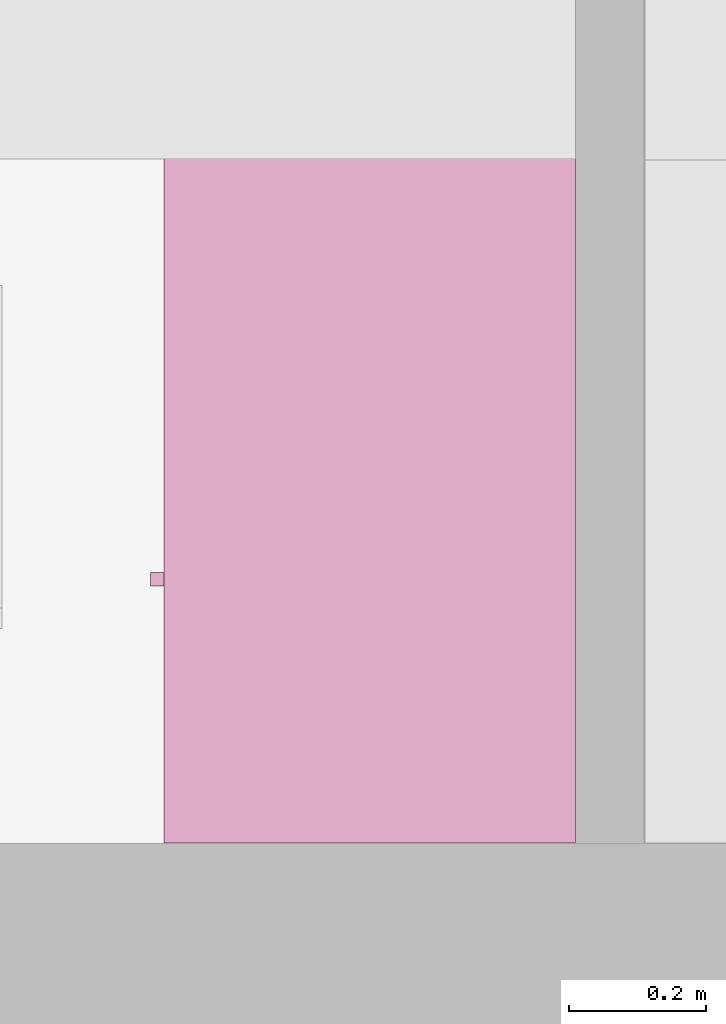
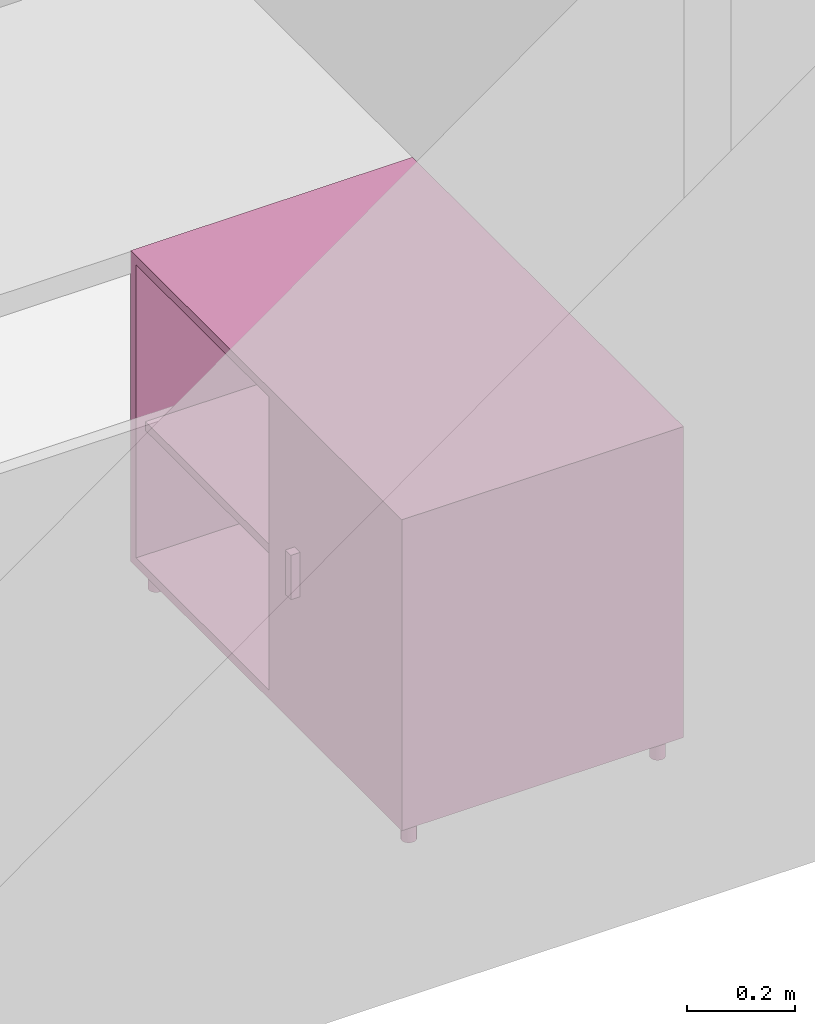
"""IFC4 building model written with IfcOpenShell, lengths in metres."""

from ifc_helpers import new_model, entity, si_unit, converted_unit, derived_unit, frame, origin, place, context, subcontext, project, spatial, faceted_brep, element, save


model = new_model("IFC4")

# Units and contexts
model_context = context("Model", 3, precision=1e-05, world=origin())
body_context = subcontext(model_context, "Body", "Model", "MODEL_VIEW")
ifc_project = project(units=[si_unit("LENGTHUNIT", "METRE"), si_unit("AREAUNIT", "SQUARE_METRE"), si_unit("VOLUMEUNIT", "CUBIC_METRE"), si_unit("MASSUNIT", "GRAM", prefix="KILO"), converted_unit("PLANEANGLEUNIT", "DEGREE", entity("IfcPlaneAngleMeasure", 0.0174532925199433), si_unit("PLANEANGLEUNIT", "RADIAN"), dimensions=[0, 0, 0, 0, 0, 0, 0]), derived_unit("THERMALTRANSMITTANCEUNIT", [(si_unit("POWERUNIT", "WATT"), 1), (si_unit("THERMODYNAMICTEMPERATUREUNIT", "KELVIN"), -1), (si_unit("LENGTHUNIT", "METRE"), -2)]), derived_unit("VOLUMETRICFLOWRATEUNIT", [(si_unit("LENGTHUNIT", "METRE"), 3), (converted_unit("TIMEUNIT", "hour", entity("IfcTimeMeasure", 3600.0), si_unit("TIMEUNIT", "SECOND"), dimensions=[0, 0, 1, 0, 0, 0, 0]), -1), (si_unit("LENGTHUNIT", "METRE"), -1)])], contexts=[model_context])

# Building, storeys
building_placement = place(None, origin())
building = spatial("IfcBuilding", under=ifc_project, at=building_placement, Name="HABITATGE PLURIFAMILIAR", CompositionType="ELEMENT")
storey_1_placement = place(building_placement, frame((0.0, 0.0, 6.25)))
storey_1 = spatial("IfcBuildingStorey", under=building, at=storey_1_placement, Name="PLANTA PRIMERA", CompositionType="ELEMENT", Elevation=6.25)
storey_2_placement = place(storey_1_placement, frame((0.0, 0.0, 3.35)))
storey_2 = spatial("IfcBuildingStorey", under=storey_1, at=storey_2_placement, Name="NOU", CompositionType="PARTIAL")

# Furniture
furniture_placement = place(storey_2_placement, frame((417.877263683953, 13.1215419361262, -3.35)))
element("IfcFurniture", 1, at=furniture_placement, inside=storey_2, Name="Taula 100X60_P1", context=body_context, shape_type="Brep", body=[
    faceted_brep([(0.620000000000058, 1.00000000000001, 0.05), (0.620000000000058, 1.00000000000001, 0.07), (0.02, 1.00000000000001, 0.07), (0.02, 1.00000000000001, 0.05), (0.02, 0.0, 0.07), (0.02, 0.0, 0.05), (0.620000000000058, 0.0, 0.07), (0.620000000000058, 0.0, 0.05)], [[[0, 1, 2, 3]], [[3, 2, 4, 5]], [[5, 4, 6, 7]], [[7, 6, 1, 0]], [[0, 3, 5, 7]], [[1, 6, 4, 2]]], orient=[[False], [False], [False], [False], [False], [False]]),
    faceted_brep([(0.04, 1.00000000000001, 0.35), (0.04, 0.0, 0.35), (0.62, 0.0, 0.35), (0.62, 1.00000000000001, 0.35), (0.62, 1.00000000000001, 0.37), (0.62, 0.0, 0.37), (0.04, 0.0, 0.37), (0.04, 1.00000000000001, 0.37)], [[[0, 1, 2, 3]], [[4, 5, 6, 7]], [[3, 4, 7, 0]], [[2, 5, 4, 3]], [[1, 6, 5, 2]], [[0, 7, 6, 1]]], orient=[[False], [False], [False], [False], [False], [False]]),
    faceted_brep([(0.04, 0.490000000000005, 0.75), (0.02, 0.490000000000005, 0.75), (0.02, 0.490000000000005, 0.05), (0.04, 0.490000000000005, 0.05), (0.02, 0.0, 0.05), (0.04, 0.0, 0.05), (0.02, 0.0, 0.75), (0.04, 0.0, 0.75)], [[[0, 1, 2, 3]], [[3, 2, 4, 5]], [[5, 4, 6, 7]], [[7, 6, 1, 0]], [[0, 3, 5, 7]], [[1, 6, 4, 2]]], orient=[[False], [False], [False], [False], [False], [False]]),
    faceted_brep([(0.62, 0.980000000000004, 0.75), (0.62, 1.0, 0.75), (0.620000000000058, 1.0, 0.0499999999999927), (0.620000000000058, 0.980000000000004, 0.0499999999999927), (0.02, 1.00000000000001, 0.05), (0.02, 0.980000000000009, 0.05), (0.02, 1.00000000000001, 0.75), (0.02, 0.980000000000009, 0.75)], [[[0, 1, 2, 3]], [[3, 2, 4, 5]], [[5, 4, 6, 7]], [[7, 6, 1, 0]], [[0, 3, 5, 7]], [[1, 6, 4, 2]]], orient=[[False], [False], [False], [False], [False], [False]]),
    faceted_brep([(0.62, 0.470000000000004, 0.75), (0.62, 0.490000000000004, 0.75), (0.620000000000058, 0.490000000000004, 0.0499999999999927), (0.620000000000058, 0.470000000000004, 0.0499999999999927), (0.02, 0.490000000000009, 0.05), (0.02, 0.470000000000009, 0.05), (0.02, 0.490000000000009, 0.75), (0.02, 0.470000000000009, 0.75)], [[[0, 1, 2, 3]], [[3, 2, 4, 5]], [[5, 4, 6, 7]], [[7, 6, 1, 0]], [[0, 3, 5, 7]], [[1, 6, 4, 2]]], orient=[[False], [False], [False], [False], [False], [False]]),
    faceted_brep([(0.620000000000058, 0.47, 0.75000000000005), (0.620000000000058, 0.490000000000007, 0.75000000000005), (0.620000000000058, 0.490000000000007, 0.0499999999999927), (0.620000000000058, 0.47, 0.0499999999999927), (0.0400000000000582, 0.490000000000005, 0.0499999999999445), (0.0400000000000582, 0.469999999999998, 0.0499999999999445), (0.04, 0.490000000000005, 0.750000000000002), (0.04, 0.469999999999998, 0.750000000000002)], [[[0, 1, 2, 3]], [[3, 2, 4, 5]], [[5, 4, 6, 7]], [[7, 6, 1, 0]], [[0, 3, 5, 7]], [[1, 6, 4, 2]]], orient=[[False], [False], [False], [False], [False], [False]]),
    faceted_brep([(0.62, 0.0, 0.75), (0.62, 0.0200000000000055, 0.75), (0.620000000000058, 0.0200000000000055, 0.0499999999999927), (0.620000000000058, 0.0, 0.0499999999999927), (0.02, 0.0200000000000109, 0.05), (0.02, 0.0, 0.05), (0.02, 0.0200000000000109, 0.75), (0.02, 0.0, 0.75)], [[[0, 1, 2, 3]], [[3, 2, 4, 5]], [[5, 4, 6, 7]], [[7, 6, 1, 0]], [[0, 3, 5, 7]], [[1, 6, 4, 2]]], orient=[[False], [False], [False], [False], [False], [False]]),
    faceted_brep([(0.620000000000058, 1.00000000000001, 0.73), (0.620000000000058, 1.00000000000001, 0.75), (0.02, 1.00000000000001, 0.75), (0.02, 1.00000000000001, 0.73), (0.02, 0.0, 0.75), (0.02, 0.0, 0.73), (0.620000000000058, 0.0, 0.75), (0.620000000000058, 0.0, 0.73)], [[[0, 1, 2, 3]], [[3, 2, 4, 5]], [[5, 4, 6, 7]], [[7, 6, 1, 0]], [[0, 3, 5, 7]], [[1, 6, 4, 2]]], orient=[[False], [False], [False], [False], [False], [False]]),
    faceted_brep([(0.62, 0.980000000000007, 0.75), (0.6, 0.980000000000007, 0.75), (0.6, 0.980000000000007, 0.05), (0.62, 0.980000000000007, 0.05), (0.6, 0.0, 0.05), (0.62, 0.0, 0.05), (0.6, 0.0, 0.75), (0.62, 0.0, 0.75)], [[[0, 1, 2, 3]], [[3, 2, 4, 5]], [[5, 4, 6, 7]], [[7, 6, 1, 0]], [[0, 3, 5, 7]], [[1, 6, 4, 2]]], orient=[[False], [False], [False], [False], [False], [False]]),
    faceted_brep([(0.02, 0.374420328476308, 0.35), (0.02, 0.394420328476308, 0.35), (0.0, 0.394420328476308, 0.35), (0.0, 0.374420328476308, 0.35), (0.02, 0.394420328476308, 0.45), (0.02, 0.374420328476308, 0.45), (0.0, 0.374420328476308, 0.45), (0.0, 0.394420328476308, 0.45)], [[[0, 1, 2, 3]], [[4, 5, 6, 7]], [[1, 0, 5, 4]], [[2, 1, 4, 7]], [[3, 2, 7, 6]], [[0, 3, 6, 5]]], orient=[[False], [False], [False], [False], [False], [False]]),
    faceted_brep([(0.583821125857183, 0.950063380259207, 0.0), (0.586415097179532, 0.950290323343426, 0.0), (0.588930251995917, 0.950964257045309, 0.0), (0.591290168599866, 0.95206470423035, 0.0), (0.59342314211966, 0.953558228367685, 0.0), (0.595264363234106, 0.955399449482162, 0.0), (0.596757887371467, 0.957532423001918, 0.0), (0.597858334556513, 0.959892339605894, 0.0), (0.598532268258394, 0.962407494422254, 0.0), (0.598759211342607, 0.96500146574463, 0.0), (0.598532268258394, 0.967595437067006, 0.0), (0.597858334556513, 0.970110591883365, 0.0), (0.596757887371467, 0.972470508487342, 0.0), (0.595264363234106, 0.974603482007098, 0.0), (0.59342314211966, 0.976444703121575, 0.0), (0.591290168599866, 0.97793822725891, 0.0), (0.588930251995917, 0.979038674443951, 0.0), (0.586415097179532, 0.979712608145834, 0.0), (0.583821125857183, 0.979939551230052, 0.0), (0.581227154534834, 0.979712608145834, 0.0), (0.578711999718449, 0.979038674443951, 0.0), (0.5763520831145, 0.97793822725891, 0.0), (0.574219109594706, 0.976444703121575, 0.0), (0.57237788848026, 0.974603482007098, 0.0), (0.570884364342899, 0.972470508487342, 0.0), (0.569783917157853, 0.970110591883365, 0.0), (0.569109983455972, 0.967595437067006, 0.0), (0.568883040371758, 0.96500146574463, 0.0), (0.569109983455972, 0.962407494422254, 0.0), (0.569783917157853, 0.959892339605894, 0.0), (0.570884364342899, 0.957532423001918, 0.0), (0.57237788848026, 0.955399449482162, 0.0), (0.574219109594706, 0.953558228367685, 0.0), (0.5763520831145, 0.95206470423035, 0.0), (0.578711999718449, 0.950964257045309, 0.0), (0.581227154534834, 0.950290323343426, 0.0), (0.583821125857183, 0.950063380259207, 0.05), (0.581227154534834, 0.950290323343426, 0.05), (0.578711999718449, 0.950964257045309, 0.05), (0.5763520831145, 0.95206470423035, 0.05), (0.574219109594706, 0.953558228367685, 0.05), (0.57237788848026, 0.955399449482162, 0.05), (0.570884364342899, 0.957532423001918, 0.05), (0.569783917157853, 0.959892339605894, 0.05), (0.569109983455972, 0.962407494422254, 0.05), (0.568883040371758, 0.96500146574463, 0.05), (0.569109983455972, 0.967595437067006, 0.05), (0.569783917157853, 0.970110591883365, 0.05), (0.570884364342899, 0.972470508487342, 0.05), (0.57237788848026, 0.974603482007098, 0.05), (0.574219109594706, 0.976444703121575, 0.05), (0.5763520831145, 0.97793822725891, 0.05), (0.578711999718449, 0.979038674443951, 0.05), (0.581227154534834, 0.979712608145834, 0.05), (0.583821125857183, 0.979939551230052, 0.05), (0.586415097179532, 0.979712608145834, 0.05), (0.588930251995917, 0.979038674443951, 0.05), (0.591290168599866, 0.97793822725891, 0.05), (0.59342314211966, 0.976444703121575, 0.05), (0.595264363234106, 0.974603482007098, 0.05), (0.596757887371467, 0.972470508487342, 0.05), (0.597858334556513, 0.970110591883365, 0.05), (0.598532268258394, 0.967595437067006, 0.05), (0.598759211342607, 0.96500146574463, 0.05), (0.598532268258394, 0.962407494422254, 0.05), (0.597858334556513, 0.959892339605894, 0.05), (0.596757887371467, 0.957532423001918, 0.05), (0.595264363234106, 0.955399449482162, 0.05), (0.59342314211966, 0.953558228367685, 0.05), (0.591290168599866, 0.95206470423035, 0.05), (0.588930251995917, 0.950964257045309, 0.05), (0.586415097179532, 0.950290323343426, 0.05)], [[[0, 1, 2, 3, 4, 5, 6, 7, 8, 9, 10, 11, 12, 13, 14, 15, 16, 17, 18, 19, 20, 21, 22, 23, 24, 25, 26, 27, 28, 29, 30, 31, 32, 33, 34, 35]], [[36, 37, 38, 39, 40, 41, 42, 43, 44, 45, 46, 47, 48, 49, 50, 51, 52, 53, 54, 55, 56, 57, 58, 59, 60, 61, 62, 63, 64, 65, 66, 67, 68, 69, 70, 71]], [[35, 37, 36, 0]], [[34, 38, 37, 35]], [[33, 39, 38, 34]], [[32, 40, 39, 33]], [[31, 41, 40, 32]], [[30, 42, 41, 31]], [[29, 43, 42, 30]], [[28, 44, 43, 29]], [[27, 45, 44, 28]], [[26, 46, 45, 27]], [[25, 47, 46, 26]], [[24, 48, 47, 25]], [[23, 49, 48, 24]], [[22, 50, 49, 23]], [[21, 51, 50, 22]], [[20, 52, 51, 21]], [[19, 53, 52, 20]], [[18, 54, 53, 19]], [[17, 55, 54, 18]], [[16, 56, 55, 17]], [[15, 57, 56, 16]], [[14, 58, 57, 15]], [[13, 59, 58, 14]], [[12, 60, 59, 13]], [[11, 61, 60, 12]], [[10, 62, 61, 11]], [[9, 63, 62, 10]], [[8, 64, 63, 9]], [[7, 65, 64, 8]], [[6, 66, 65, 7]], [[5, 67, 66, 6]], [[4, 68, 67, 5]], [[3, 69, 68, 4]], [[2, 70, 69, 3]], [[1, 71, 70, 2]], [[0, 36, 71, 1]]], orient=[[False], [False], [False], [False], [False], [False], [False], [False], [False], [False], [False], [False], [False], [False], [False], [False], [False], [False], [False], [False], [False], [False], [False], [False], [False], [False], [False], [False], [False], [False], [False], [False], [False], [False], [False], [False], [False], [False]]),
    faceted_brep([(0.0538211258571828, 0.950063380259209, 0.0), (0.0564150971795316, 0.950290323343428, 0.0), (0.0589302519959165, 0.950964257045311, 0.0), (0.0612901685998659, 0.952064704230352, 0.0), (0.06342314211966, 0.953558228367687, 0.0), (0.065264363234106, 0.955399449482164, 0.0), (0.0667578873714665, 0.95753242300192, 0.0), (0.067858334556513, 0.959892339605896, 0.0), (0.0685322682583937, 0.962407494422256, 0.0), (0.0687592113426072, 0.965001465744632, 0.0), (0.0685322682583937, 0.967595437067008, 0.0), (0.067858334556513, 0.970110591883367, 0.0), (0.0667578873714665, 0.972470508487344, 0.0), (0.065264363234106, 0.9746034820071, 0.0), (0.06342314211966, 0.976444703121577, 0.0), (0.0612901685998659, 0.977938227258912, 0.0), (0.0589302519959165, 0.979038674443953, 0.0), (0.0564150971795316, 0.979712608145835, 0.0), (0.0538211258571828, 0.979939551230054, 0.0), (0.051227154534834, 0.979712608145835, 0.0), (0.0487119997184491, 0.979038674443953, 0.0), (0.0463520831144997, 0.977938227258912, 0.0), (0.0442191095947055, 0.976444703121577, 0.0), (0.0423778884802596, 0.9746034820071, 0.0), (0.0408843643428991, 0.972470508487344, 0.0), (0.0397839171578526, 0.970110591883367, 0.0), (0.0391099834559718, 0.967595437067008, 0.0), (0.0388830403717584, 0.965001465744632, 0.0), (0.0391099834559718, 0.962407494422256, 0.0), (0.0397839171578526, 0.959892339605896, 0.0), (0.0408843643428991, 0.95753242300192, 0.0), (0.0423778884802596, 0.955399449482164, 0.0), (0.0442191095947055, 0.953558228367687, 0.0), (0.0463520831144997, 0.952064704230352, 0.0), (0.0487119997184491, 0.950964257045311, 0.0), (0.051227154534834, 0.950290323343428, 0.0), (0.0538211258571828, 0.950063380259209, 0.05), (0.051227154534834, 0.950290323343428, 0.05), (0.0487119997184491, 0.950964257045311, 0.05), (0.0463520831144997, 0.952064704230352, 0.05), (0.0442191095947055, 0.953558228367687, 0.05), (0.0423778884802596, 0.955399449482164, 0.05), (0.0408843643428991, 0.95753242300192, 0.05), (0.0397839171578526, 0.959892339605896, 0.05), (0.0391099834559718, 0.962407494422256, 0.05), (0.0388830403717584, 0.965001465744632, 0.05), (0.0391099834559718, 0.967595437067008, 0.05), (0.0397839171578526, 0.970110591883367, 0.05), (0.0408843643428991, 0.972470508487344, 0.05), (0.0423778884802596, 0.9746034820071, 0.05), (0.0442191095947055, 0.976444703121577, 0.05), (0.0463520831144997, 0.977938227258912, 0.05), (0.0487119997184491, 0.979038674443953, 0.05), (0.051227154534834, 0.979712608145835, 0.05), (0.0538211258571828, 0.979939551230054, 0.05), (0.0564150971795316, 0.979712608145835, 0.05), (0.0589302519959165, 0.979038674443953, 0.05), (0.0612901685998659, 0.977938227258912, 0.05), (0.06342314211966, 0.976444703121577, 0.05), (0.065264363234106, 0.9746034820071, 0.05), (0.0667578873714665, 0.972470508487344, 0.05), (0.067858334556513, 0.970110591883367, 0.05), (0.0685322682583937, 0.967595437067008, 0.05), (0.0687592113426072, 0.965001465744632, 0.05), (0.0685322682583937, 0.962407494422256, 0.05), (0.067858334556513, 0.959892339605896, 0.05), (0.0667578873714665, 0.95753242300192, 0.05), (0.065264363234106, 0.955399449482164, 0.05), (0.06342314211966, 0.953558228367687, 0.05), (0.0612901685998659, 0.952064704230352, 0.05), (0.0589302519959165, 0.950964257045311, 0.05), (0.0564150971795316, 0.950290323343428, 0.05)], [[[0, 1, 2, 3, 4, 5, 6, 7, 8, 9, 10, 11, 12, 13, 14, 15, 16, 17, 18, 19, 20, 21, 22, 23, 24, 25, 26, 27, 28, 29, 30, 31, 32, 33, 34, 35]], [[36, 37, 38, 39, 40, 41, 42, 43, 44, 45, 46, 47, 48, 49, 50, 51, 52, 53, 54, 55, 56, 57, 58, 59, 60, 61, 62, 63, 64, 65, 66, 67, 68, 69, 70, 71]], [[35, 37, 36, 0]], [[34, 38, 37, 35]], [[33, 39, 38, 34]], [[32, 40, 39, 33]], [[31, 41, 40, 32]], [[30, 42, 41, 31]], [[29, 43, 42, 30]], [[28, 44, 43, 29]], [[27, 45, 44, 28]], [[26, 46, 45, 27]], [[25, 47, 46, 26]], [[24, 48, 47, 25]], [[23, 49, 48, 24]], [[22, 50, 49, 23]], [[21, 51, 50, 22]], [[20, 52, 51, 21]], [[19, 53, 52, 20]], [[18, 54, 53, 19]], [[17, 55, 54, 18]], [[16, 56, 55, 17]], [[15, 57, 56, 16]], [[14, 58, 57, 15]], [[13, 59, 58, 14]], [[12, 60, 59, 13]], [[11, 61, 60, 12]], [[10, 62, 61, 11]], [[9, 63, 62, 10]], [[8, 64, 63, 9]], [[7, 65, 64, 8]], [[6, 66, 65, 7]], [[5, 67, 66, 6]], [[4, 68, 67, 5]], [[3, 69, 68, 4]], [[2, 70, 69, 3]], [[1, 71, 70, 2]], [[0, 36, 71, 1]]], orient=[[False], [False], [False], [False], [False], [False], [False], [False], [False], [False], [False], [False], [False], [False], [False], [False], [False], [False], [False], [False], [False], [False], [False], [False], [False], [False], [False], [False], [False], [False], [False], [False], [False], [False], [False], [False], [False], [False]]),
    faceted_brep([(0.0550000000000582, 0.0200170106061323, 0.0), (0.057593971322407, 0.0202439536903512, 0.0), (0.0601091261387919, 0.0209178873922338, 0.0), (0.0624690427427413, 0.0220183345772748, 0.0), (0.0646020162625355, 0.0235118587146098, 0.0), (0.0664432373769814, 0.0253530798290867, 0.0), (0.0679367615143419, 0.0274860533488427, 0.0), (0.0690372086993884, 0.0298459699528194, 0.0), (0.0697111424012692, 0.0323611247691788, 0.0), (0.0699380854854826, 0.0349550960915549, 0.0), (0.0697111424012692, 0.037549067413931, 0.0), (0.0690372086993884, 0.0400642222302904, 0.0), (0.0679367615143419, 0.0424241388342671, 0.0), (0.0664432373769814, 0.044557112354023, 0.0), (0.0646020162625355, 0.0463983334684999, 0.0), (0.0624690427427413, 0.047891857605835, 0.0), (0.0601091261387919, 0.048992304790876, 0.0), (0.057593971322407, 0.0496662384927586, 0.0), (0.0550000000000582, 0.0498931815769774, 0.0), (0.0524060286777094, 0.0496662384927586, 0.0), (0.0498908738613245, 0.048992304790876, 0.0), (0.0475309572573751, 0.047891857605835, 0.0), (0.0453979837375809, 0.0463983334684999, 0.0), (0.043556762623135, 0.044557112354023, 0.0), (0.0420632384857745, 0.0424241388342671, 0.0), (0.040962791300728, 0.0400642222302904, 0.0), (0.0402888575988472, 0.037549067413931, 0.0), (0.0400619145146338, 0.0349550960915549, 0.0), (0.0402888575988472, 0.0323611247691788, 0.0), (0.040962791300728, 0.0298459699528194, 0.0), (0.0420632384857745, 0.0274860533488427, 0.0), (0.043556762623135, 0.0253530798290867, 0.0), (0.0453979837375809, 0.0235118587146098, 0.0), (0.0475309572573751, 0.0220183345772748, 0.0), (0.0498908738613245, 0.0209178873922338, 0.0), (0.0524060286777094, 0.0202439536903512, 0.0), (0.0550000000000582, 0.0200170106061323, 0.05), (0.0524060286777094, 0.0202439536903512, 0.05), (0.0498908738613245, 0.0209178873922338, 0.05), (0.0475309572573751, 0.0220183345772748, 0.05), (0.0453979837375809, 0.0235118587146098, 0.05), (0.043556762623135, 0.0253530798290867, 0.05), (0.0420632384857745, 0.0274860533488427, 0.05), (0.040962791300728, 0.0298459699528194, 0.05), (0.0402888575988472, 0.0323611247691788, 0.05), (0.0400619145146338, 0.0349550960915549, 0.05), (0.0402888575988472, 0.037549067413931, 0.05), (0.040962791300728, 0.0400642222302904, 0.05), (0.0420632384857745, 0.0424241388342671, 0.05), (0.043556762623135, 0.044557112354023, 0.05), (0.0453979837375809, 0.0463983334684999, 0.05), (0.0475309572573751, 0.047891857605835, 0.05), (0.0498908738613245, 0.048992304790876, 0.05), (0.0524060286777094, 0.0496662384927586, 0.05), (0.0550000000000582, 0.0498931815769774, 0.05), (0.057593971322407, 0.0496662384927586, 0.05), (0.0601091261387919, 0.048992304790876, 0.05), (0.0624690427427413, 0.047891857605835, 0.05), (0.0646020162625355, 0.0463983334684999, 0.05), (0.0664432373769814, 0.044557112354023, 0.05), (0.0679367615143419, 0.0424241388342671, 0.05), (0.0690372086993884, 0.0400642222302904, 0.05), (0.0697111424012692, 0.037549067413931, 0.05), (0.0699380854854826, 0.0349550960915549, 0.05), (0.0697111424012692, 0.0323611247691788, 0.05), (0.0690372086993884, 0.0298459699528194, 0.05), (0.0679367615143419, 0.0274860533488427, 0.05), (0.0664432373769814, 0.0253530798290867, 0.05), (0.0646020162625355, 0.0235118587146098, 0.05), (0.0624690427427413, 0.0220183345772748, 0.05), (0.0601091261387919, 0.0209178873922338, 0.05), (0.057593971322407, 0.0202439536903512, 0.05)], [[[0, 1, 2, 3, 4, 5, 6, 7, 8, 9, 10, 11, 12, 13, 14, 15, 16, 17, 18, 19, 20, 21, 22, 23, 24, 25, 26, 27, 28, 29, 30, 31, 32, 33, 34, 35]], [[36, 37, 38, 39, 40, 41, 42, 43, 44, 45, 46, 47, 48, 49, 50, 51, 52, 53, 54, 55, 56, 57, 58, 59, 60, 61, 62, 63, 64, 65, 66, 67, 68, 69, 70, 71]], [[35, 37, 36, 0]], [[34, 38, 37, 35]], [[33, 39, 38, 34]], [[32, 40, 39, 33]], [[31, 41, 40, 32]], [[30, 42, 41, 31]], [[29, 43, 42, 30]], [[28, 44, 43, 29]], [[27, 45, 44, 28]], [[26, 46, 45, 27]], [[25, 47, 46, 26]], [[24, 48, 47, 25]], [[23, 49, 48, 24]], [[22, 50, 49, 23]], [[21, 51, 50, 22]], [[20, 52, 51, 21]], [[19, 53, 52, 20]], [[18, 54, 53, 19]], [[17, 55, 54, 18]], [[16, 56, 55, 17]], [[15, 57, 56, 16]], [[14, 58, 57, 15]], [[13, 59, 58, 14]], [[12, 60, 59, 13]], [[11, 61, 60, 12]], [[10, 62, 61, 11]], [[9, 63, 62, 10]], [[8, 64, 63, 9]], [[7, 65, 64, 8]], [[6, 66, 65, 7]], [[5, 67, 66, 6]], [[4, 68, 67, 5]], [[3, 69, 68, 4]], [[2, 70, 69, 3]], [[1, 71, 70, 2]], [[0, 36, 71, 1]]], orient=[[False], [False], [False], [False], [False], [False], [False], [False], [False], [False], [False], [False], [False], [False], [False], [False], [False], [False], [False], [False], [False], [False], [False], [False], [False], [False], [False], [False], [False], [False], [False], [False], [False], [False], [False], [False], [False], [False]]),
    faceted_brep([(0.585033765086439, 0.0203520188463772, 0.0), (0.587627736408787, 0.0205789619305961, 0.0), (0.590142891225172, 0.0212528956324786, 0.0), (0.592502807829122, 0.0223533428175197, 0.0), (0.594635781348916, 0.0238468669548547, 0.0), (0.596477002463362, 0.0256880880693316, 0.0), (0.597970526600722, 0.0278210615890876, 0.0), (0.599070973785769, 0.0301809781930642, 0.0), (0.59974490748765, 0.0326961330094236, 0.0), (0.599971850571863, 0.0352901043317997, 0.0), (0.59974490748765, 0.0378840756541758, 0.0), (0.599070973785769, 0.0403992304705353, 0.0), (0.597970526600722, 0.0427591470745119, 0.0), (0.596477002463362, 0.0448921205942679, 0.0), (0.594635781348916, 0.0467333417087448, 0.0), (0.592502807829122, 0.0482268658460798, 0.0), (0.590142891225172, 0.0493273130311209, 0.0), (0.587627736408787, 0.0500012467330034, 0.0), (0.585033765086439, 0.0502281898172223, 0.0), (0.58243979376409, 0.0500012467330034, 0.0), (0.579924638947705, 0.0493273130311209, 0.0), (0.577564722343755, 0.0482268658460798, 0.0), (0.575431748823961, 0.0467333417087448, 0.0), (0.573590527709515, 0.0448921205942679, 0.0), (0.572097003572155, 0.0427591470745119, 0.0), (0.570996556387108, 0.0403992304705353, 0.0), (0.570322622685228, 0.0378840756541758, 0.0), (0.570095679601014, 0.0352901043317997, 0.0), (0.570322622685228, 0.0326961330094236, 0.0), (0.570996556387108, 0.0301809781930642, 0.0), (0.572097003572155, 0.0278210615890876, 0.0), (0.573590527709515, 0.0256880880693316, 0.0), (0.575431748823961, 0.0238468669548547, 0.0), (0.577564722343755, 0.0223533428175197, 0.0), (0.579924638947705, 0.0212528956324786, 0.0), (0.58243979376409, 0.0205789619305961, 0.0), (0.585033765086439, 0.0203520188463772, 0.05), (0.58243979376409, 0.0205789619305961, 0.05), (0.579924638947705, 0.0212528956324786, 0.05), (0.577564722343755, 0.0223533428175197, 0.05), (0.575431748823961, 0.0238468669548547, 0.05), (0.573590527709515, 0.0256880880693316, 0.05), (0.572097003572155, 0.0278210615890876, 0.05), (0.570996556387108, 0.0301809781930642, 0.05), (0.570322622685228, 0.0326961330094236, 0.05), (0.570095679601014, 0.0352901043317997, 0.05), (0.570322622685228, 0.0378840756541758, 0.05), (0.570996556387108, 0.0403992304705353, 0.05), (0.572097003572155, 0.0427591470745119, 0.05), (0.573590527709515, 0.0448921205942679, 0.05), (0.575431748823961, 0.0467333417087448, 0.05), (0.577564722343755, 0.0482268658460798, 0.05), (0.579924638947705, 0.0493273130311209, 0.05), (0.58243979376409, 0.0500012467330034, 0.05), (0.585033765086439, 0.0502281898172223, 0.05), (0.587627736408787, 0.0500012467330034, 0.05), (0.590142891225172, 0.0493273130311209, 0.05), (0.592502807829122, 0.0482268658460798, 0.05), (0.594635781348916, 0.0467333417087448, 0.05), (0.596477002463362, 0.0448921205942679, 0.05), (0.597970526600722, 0.0427591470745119, 0.05), (0.599070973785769, 0.0403992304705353, 0.05), (0.59974490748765, 0.0378840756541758, 0.05), (0.599971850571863, 0.0352901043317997, 0.05), (0.59974490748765, 0.0326961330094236, 0.05), (0.599070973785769, 0.0301809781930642, 0.05), (0.597970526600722, 0.0278210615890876, 0.05), (0.596477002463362, 0.0256880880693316, 0.05), (0.594635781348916, 0.0238468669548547, 0.05), (0.592502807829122, 0.0223533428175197, 0.05), (0.590142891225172, 0.0212528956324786, 0.05), (0.587627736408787, 0.0205789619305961, 0.05)], [[[0, 1, 2, 3, 4, 5, 6, 7, 8, 9, 10, 11, 12, 13, 14, 15, 16, 17, 18, 19, 20, 21, 22, 23, 24, 25, 26, 27, 28, 29, 30, 31, 32, 33, 34, 35]], [[36, 37, 38, 39, 40, 41, 42, 43, 44, 45, 46, 47, 48, 49, 50, 51, 52, 53, 54, 55, 56, 57, 58, 59, 60, 61, 62, 63, 64, 65, 66, 67, 68, 69, 70, 71]], [[35, 37, 36, 0]], [[34, 38, 37, 35]], [[33, 39, 38, 34]], [[32, 40, 39, 33]], [[31, 41, 40, 32]], [[30, 42, 41, 31]], [[29, 43, 42, 30]], [[28, 44, 43, 29]], [[27, 45, 44, 28]], [[26, 46, 45, 27]], [[25, 47, 46, 26]], [[24, 48, 47, 25]], [[23, 49, 48, 24]], [[22, 50, 49, 23]], [[21, 51, 50, 22]], [[20, 52, 51, 21]], [[19, 53, 52, 20]], [[18, 54, 53, 19]], [[17, 55, 54, 18]], [[16, 56, 55, 17]], [[15, 57, 56, 16]], [[14, 58, 57, 15]], [[13, 59, 58, 14]], [[12, 60, 59, 13]], [[11, 61, 60, 12]], [[10, 62, 61, 11]], [[9, 63, 62, 10]], [[8, 64, 63, 9]], [[7, 65, 64, 8]], [[6, 66, 65, 7]], [[5, 67, 66, 6]], [[4, 68, 67, 5]], [[3, 69, 68, 4]], [[2, 70, 69, 3]], [[1, 71, 70, 2]], [[0, 36, 71, 1]]], orient=[[False], [False], [False], [False], [False], [False], [False], [False], [False], [False], [False], [False], [False], [False], [False], [False], [False], [False], [False], [False], [False], [False], [False], [False], [False], [False], [False], [False], [False], [False], [False], [False], [False], [False], [False], [False], [False], [False]]),
])

save(model, "model.ifc")
